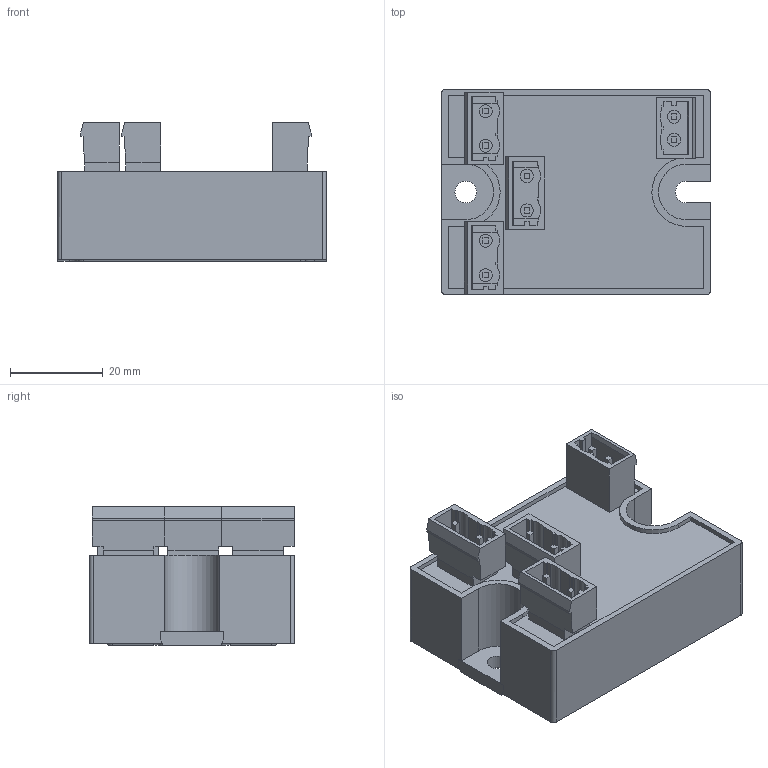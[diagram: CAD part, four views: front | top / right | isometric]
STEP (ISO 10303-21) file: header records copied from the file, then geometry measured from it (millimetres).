
FILE_DESCRIPTION((''),'2;1');
FILE_NAME('C:\Documents and Settings\jstuder\Bureau\2D3 d 562 A.stp','2010-01-28T13:37:58',('Jean STUDER','Agent mthode','+33 (0)4 77 53 90 27','jstuder@celduc.com'),('Celduc r e l a i s','5, rue Ampre, BP 30004','42290 SORBIERS - France','Fax : +33 (0)4 77 53 85 51','N siret 353 310 519 00015','ISO 9001 N QUAL/1993/1106b','www.celduc.com'),'Autodesk Inventor 2010','Autodesk Inventor 2010','');
FILE_SCHEMA(('AUTOMOTIVE_DESIGN { 1 0 10303 214 1 1 1 1 }'));
Length unit declared in the file: millimetre
Products named in the file (1): SCTx2110unique
Bounding box: 58.06 x 44.3 x 30 mm (x, y, z)
Volume: 46367.6 mm3; surface area: 13789.8 mm2
Topology: 1 solids, 1 shells, 264 faces, 714 edges, 476 vertices
Faces by surface type: plane 216, cylinder 30, bspline 10, cone 8
Full cylindrical faces by diameter (mm): 4.7 x1
Entity records: 8571 total; most frequent: CARTESIAN_POINT 1540, ORIENTED_EDGE 1426, DIRECTION 1307, EDGE_CURVE 713, VECTOR 629, LINE 629, VERTEX_POINT 476, AXIS2_PLACEMENT_3D 339
